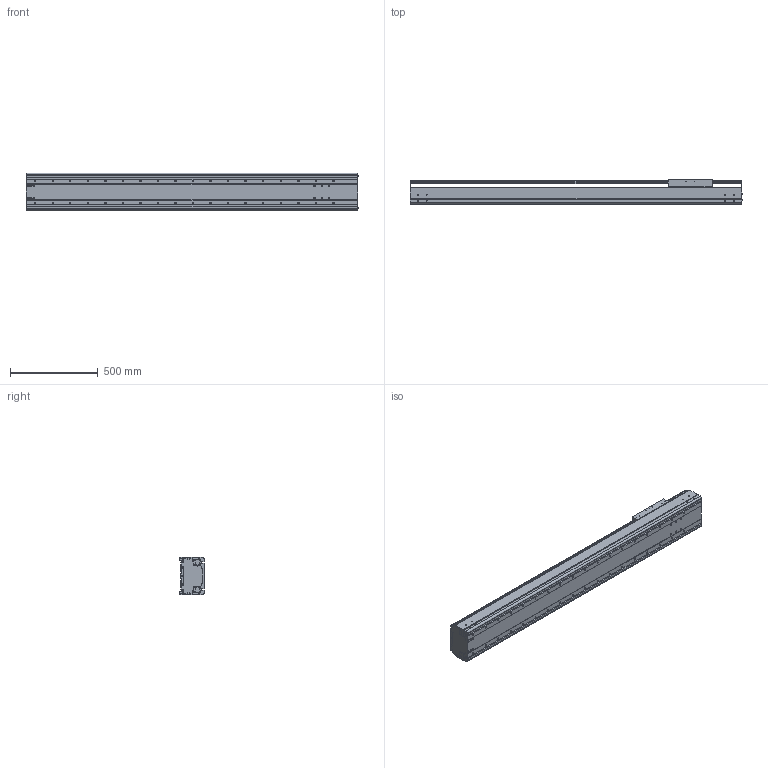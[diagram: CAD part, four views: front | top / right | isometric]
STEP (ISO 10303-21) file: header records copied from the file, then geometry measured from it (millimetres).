
FILE_DESCRIPTION((''),'2;1');
FILE_NAME('BE60J-ST-M_N-E0_IGS_PRT','2017-06-18T',(' '),(''),'PRO/ENGINEER BY PARAMETRIC TECHNOLOGY CORPORATION, 2015030','PRO/ENGINEER BY PARAMETRIC TECHNOLOGY CORPORATION, 2015030','');
FILE_SCHEMA(('CONFIG_CONTROL_DESIGN'));
Length unit declared in the file: millimetre
Products named in the file (1): BE60J-ST-M_N-E0_IGS_PRT
Bounding box: 1892.4 x 140 x 214 mm (x, y, z)
Volume: 14338242.6 mm3; surface area: 3933223.3 mm2
Topology: 2 solids, 128 shells, 1531 faces, 4332 edges, 2901 vertices
Faces by surface type: cylinder 810, plane 621, cone 52, sphere 24, torus 24
Entity records: 51957 total; most frequent: CARTESIAN_POINT 11766, DIRECTION 8352, ORIENTED_EDGE 8068, EDGE_CURVE 4282, AXIS2_PLACEMENT_3D 3124, VERTEX_POINT 2900, VECTOR 2104, LINE 2104
